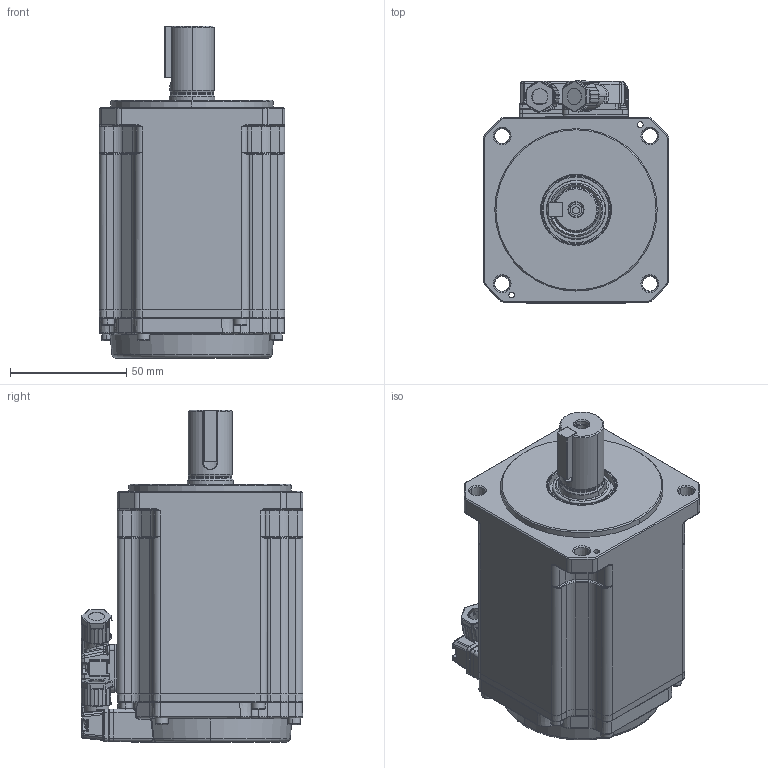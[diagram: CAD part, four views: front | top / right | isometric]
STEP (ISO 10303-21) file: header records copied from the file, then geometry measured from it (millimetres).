
FILE_DESCRIPTION (( 'STEP AP214' ), '1' );
FILE_NAME ('80x80-1000W伺服电机_通用外形图_A0.STEP', '2023-09-15T02:01:16', ( '' ), ( '' ), 'SwSTEP 2.0', 'SolidWorks 2020', '' );
FILE_SCHEMA (( 'AUTOMOTIVE_DESIGN' ));
Length unit declared in the file: millimetre
Products named in the file (1): 80x80-1000W伺服电机_通用外形图_A0
Bounding box: 80 x 95.65 x 143.1 mm (x, y, z)
Surface area: 55968.1 mm2 (no closed solid volume)
Topology: 0 solids, 30 shells, 1312 faces, 4724 edges, 3259 vertices
Faces by surface type: plane 440, cylinder 417, torus 216, bspline 108, cone 103, sphere 28
Entity records: 71645 total; most frequent: CARTESIAN_POINT 19129, DIRECTION 7655, ORIENTED_EDGE 7458, EDGE_CURVE 4690, VERTEX_POINT 3259, AXIS2_PLACEMENT_3D 2782, LINE 2091, VECTOR 2091
